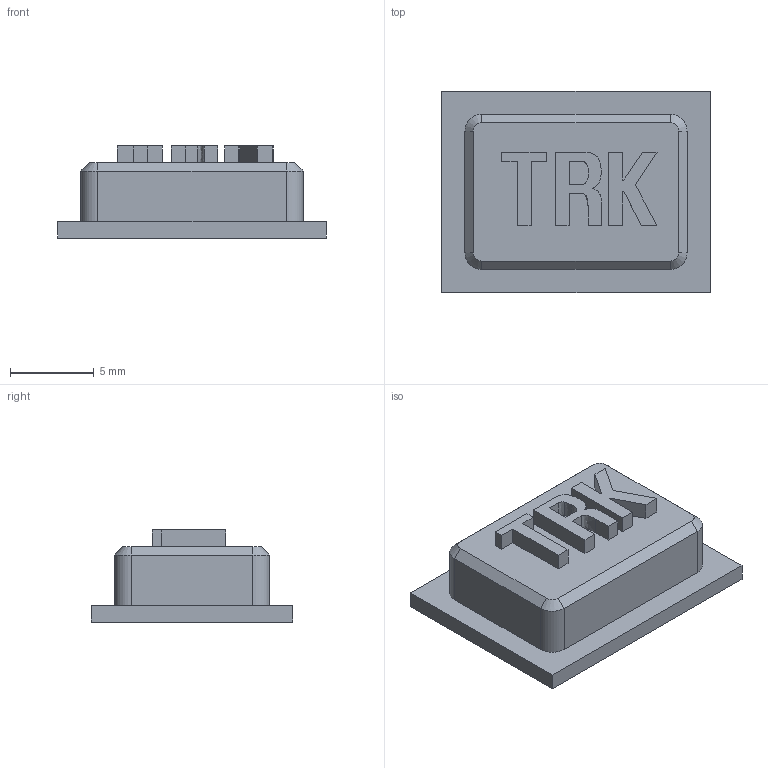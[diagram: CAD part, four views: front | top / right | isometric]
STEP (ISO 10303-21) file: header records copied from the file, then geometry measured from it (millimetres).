
FILE_DESCRIPTION(('FreeCAD Model'),'2;1');
FILE_NAME('E:/CAD Designs/Garmin/Final/CAD files/STEP/TRK.step', '2021-02-27T13:00:39',('Author'),(''), 'Open CASCADE STEP processor 7.3','FreeCAD','Unknown');
FILE_SCHEMA(('AUTOMOTIVE_DESIGN { 1 0 10303 214 1 1 1 1 }'));
Length unit declared in the file: millimetre
Products named in the file (2): Body; Extrude
Bounding box: 16 x 12 x 5.5 mm (x, y, z)
Volume: 632.9 mm3; surface area: 676.5 mm2
Topology: 4 solids, 4 shells, 74 faces, 187 edges, 122 vertices
Faces by surface type: plane 53, extrusion 13, cylinder 4, cone 4
Entity records: 4696 total; most frequent: CARTESIAN_POINT 894, DIRECTION 657, VECTOR 502, LINE 489, ORIENTED_EDGE 374, PCURVE 374, DEFINITIONAL_REPRESENTATION 374, EDGE_CURVE 187
